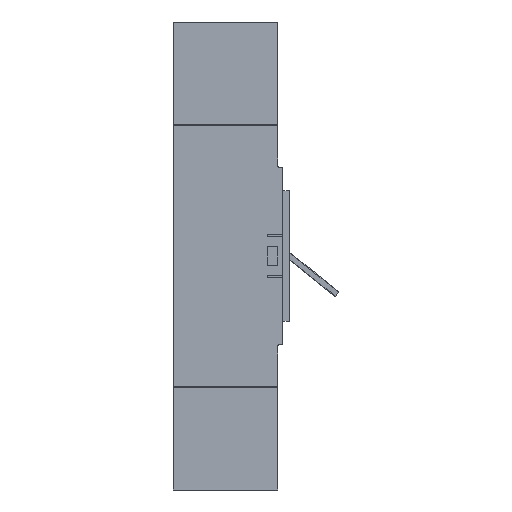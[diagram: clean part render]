
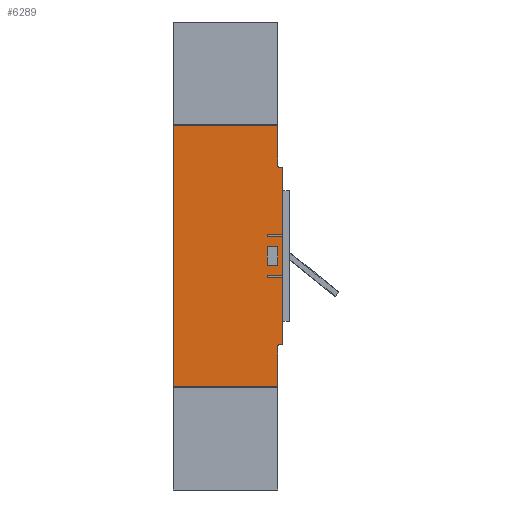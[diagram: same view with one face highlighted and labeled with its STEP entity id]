
A CAD part, left-side view. The second image highlights one B-rep face of the part: STEP entity #6289.
In plain terms, the highlighted planar face has unit normal (-1, 0, 0).
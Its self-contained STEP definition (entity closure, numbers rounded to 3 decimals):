
#177=CIRCLE('',#6671,1.);
#178=CIRCLE('',#6672,1.);
#179=CIRCLE('',#6673,1.);
#180=CIRCLE('',#6674,1.);
#384=FACE_BOUND('',#1124,.T.);
#756=FACE_OUTER_BOUND('',#1123,.T.);
#1123=EDGE_LOOP('',(#5591,#5592,#5593,#5594,#5595,#5596,#5597,#5598,#5599,
#5600,#5601,#5602,#5603,#5604,#5605,#5606,#5607,#5608,#5609,#5610));
#1124=EDGE_LOOP('',(#5611,#5612,#5613,#5614));
#1146=LINE('',#8144,#1814);
#1150=LINE('',#8152,#1818);
#1153=LINE('',#8158,#1821);
#1157=LINE('',#8167,#1825);
#1161=LINE('',#8175,#1829);
#1164=LINE('',#8181,#1832);
#1168=LINE('',#8190,#1836);
#1172=LINE('',#8198,#1840);
#1175=LINE('',#8204,#1843);
#1178=LINE('',#8209,#1846);
#1180=LINE('',#8214,#1848);
#1192=LINE('',#8237,#1860);
#1193=LINE('',#8238,#1861);
#1415=LINE('',#9018,#2083);
#1786=LINE('',#10811,#2454);
#1793=LINE('',#10825,#2461);
#1798=LINE('',#10845,#2466);
#1799=LINE('',#10848,#2467);
#1800=LINE('',#10850,#2468);
#1801=LINE('',#10854,#2469);
#1814=VECTOR('',#6700,15.);
#1818=VECTOR('',#6706,2.);
#1821=VECTOR('',#6711,15.);
#1825=VECTOR('',#6719,15.);
#1829=VECTOR('',#6725,2.);
#1832=VECTOR('',#6730,15.);
#1836=VECTOR('',#6738,10.);
#1840=VECTOR('',#6744,18.4);
#1843=VECTOR('',#6749,10.);
#1846=VECTOR('',#6754,18.4);
#1848=VECTOR('',#6760,64.55);
#1860=VECTOR('',#6772,64.55);
#1861=VECTOR('',#6773,38.4);
#2083=VECTOR('',#7211,255.);
#2454=VECTOR('',#8040,102.);
#2461=VECTOR('',#8057,102.);
#2466=VECTOR('',#8076,3.);
#2467=VECTOR('',#8079,39.75);
#2468=VECTOR('',#8080,39.75);
#2469=VECTOR('',#8083,3.);
#2482=VERTEX_POINT('',#8142);
#2483=VERTEX_POINT('',#8143);
#2486=VERTEX_POINT('',#8151);
#2488=VERTEX_POINT('',#8157);
#2490=VERTEX_POINT('',#8165);
#2491=VERTEX_POINT('',#8166);
#2494=VERTEX_POINT('',#8174);
#2496=VERTEX_POINT('',#8180);
#2498=VERTEX_POINT('',#8188);
#2499=VERTEX_POINT('',#8189);
#2502=VERTEX_POINT('',#8197);
#2504=VERTEX_POINT('',#8203);
#2506=VERTEX_POINT('',#8213);
#2517=VERTEX_POINT('',#8235);
#2778=VERTEX_POINT('',#9015);
#2779=VERTEX_POINT('',#9017);
#3053=VERTEX_POINT('',#10809);
#3055=VERTEX_POINT('',#10823);
#3062=VERTEX_POINT('',#10842);
#3063=VERTEX_POINT('',#10844);
#3064=VERTEX_POINT('',#10846);
#3065=VERTEX_POINT('',#10849);
#3066=VERTEX_POINT('',#10851);
#3067=VERTEX_POINT('',#10853);
#3072=EDGE_CURVE('',#2482,#2483,#1146,.T.);
#3076=EDGE_CURVE('',#2486,#2482,#1150,.T.);
#3079=EDGE_CURVE('',#2488,#2486,#1153,.T.);
#3083=EDGE_CURVE('',#2490,#2491,#1157,.T.);
#3087=EDGE_CURVE('',#2494,#2490,#1161,.T.);
#3090=EDGE_CURVE('',#2496,#2494,#1164,.T.);
#3094=EDGE_CURVE('',#2498,#2499,#1168,.T.);
#3098=EDGE_CURVE('',#2502,#2498,#1172,.T.);
#3101=EDGE_CURVE('',#2504,#2502,#1175,.T.);
#3104=EDGE_CURVE('',#2499,#2504,#1178,.T.);
#3106=EDGE_CURVE('',#2488,#2506,#1180,.T.);
#3118=EDGE_CURVE('',#2517,#2491,#1192,.T.);
#3119=EDGE_CURVE('',#2496,#2483,#1193,.T.);
#3431=EDGE_CURVE('',#2778,#2779,#1415,.T.);
#3924=EDGE_CURVE('',#2778,#3053,#1786,.T.);
#3931=EDGE_CURVE('',#3055,#2779,#1793,.T.);
#3940=EDGE_CURVE('',#3062,#2517,#177,.T.);
#3941=EDGE_CURVE('',#3063,#3062,#1798,.T.);
#3942=EDGE_CURVE('',#3064,#3063,#178,.T.);
#3943=EDGE_CURVE('',#3055,#3064,#1799,.T.);
#3944=EDGE_CURVE('',#3065,#3053,#1800,.T.);
#3945=EDGE_CURVE('',#3066,#3065,#179,.T.);
#3946=EDGE_CURVE('',#3067,#3066,#1801,.T.);
#3947=EDGE_CURVE('',#2506,#3067,#180,.T.);
#5591=ORIENTED_EDGE('',*,*,#3072,.T.);
#5592=ORIENTED_EDGE('',*,*,#3119,.F.);
#5593=ORIENTED_EDGE('',*,*,#3090,.T.);
#5594=ORIENTED_EDGE('',*,*,#3087,.T.);
#5595=ORIENTED_EDGE('',*,*,#3083,.T.);
#5596=ORIENTED_EDGE('',*,*,#3118,.F.);
#5597=ORIENTED_EDGE('',*,*,#3940,.F.);
#5598=ORIENTED_EDGE('',*,*,#3941,.F.);
#5599=ORIENTED_EDGE('',*,*,#3942,.F.);
#5600=ORIENTED_EDGE('',*,*,#3943,.F.);
#5601=ORIENTED_EDGE('',*,*,#3931,.T.);
#5602=ORIENTED_EDGE('',*,*,#3431,.F.);
#5603=ORIENTED_EDGE('',*,*,#3924,.T.);
#5604=ORIENTED_EDGE('',*,*,#3944,.F.);
#5605=ORIENTED_EDGE('',*,*,#3945,.F.);
#5606=ORIENTED_EDGE('',*,*,#3946,.F.);
#5607=ORIENTED_EDGE('',*,*,#3947,.F.);
#5608=ORIENTED_EDGE('',*,*,#3106,.F.);
#5609=ORIENTED_EDGE('',*,*,#3079,.T.);
#5610=ORIENTED_EDGE('',*,*,#3076,.T.);
#5611=ORIENTED_EDGE('',*,*,#3094,.T.);
#5612=ORIENTED_EDGE('',*,*,#3104,.T.);
#5613=ORIENTED_EDGE('',*,*,#3101,.T.);
#5614=ORIENTED_EDGE('',*,*,#3098,.T.);
#5957=PLANE('',#6670);
#6289=ADVANCED_FACE('',(#756,#384),#5957,.F.);
#6670=AXIS2_PLACEMENT_3D('',#10841,#8072,#8073);
#6671=AXIS2_PLACEMENT_3D('',#10843,#8074,#8075);
#6672=AXIS2_PLACEMENT_3D('',#10847,#8077,#8078);
#6673=AXIS2_PLACEMENT_3D('',#10852,#8081,#8082);
#6674=AXIS2_PLACEMENT_3D('',#10855,#8084,#8085);
#6700=DIRECTION('',(0.,-1.,0.));
#6706=DIRECTION('',(0.,0.,1.));
#6711=DIRECTION('',(0.,1.,0.));
#6719=DIRECTION('',(0.,-1.,0.));
#6725=DIRECTION('',(0.,0.,1.));
#6730=DIRECTION('',(0.,1.,0.));
#6738=DIRECTION('',(0.,-1.,0.));
#6744=DIRECTION('',(0.,0.,1.));
#6749=DIRECTION('',(0.,1.,0.));
#6754=DIRECTION('',(0.,0.,-1.));
#6760=DIRECTION('',(0.,0.,-1.));
#6772=DIRECTION('',(0.,0.,-1.));
#6773=DIRECTION('',(0.,0.,-1.));
#7211=DIRECTION('',(0.,0.,1.));
#8040=DIRECTION('',(0.,-1.,0.));
#8057=DIRECTION('',(0.,1.,0.));
#8072=DIRECTION('center_axis',(1.,0.,0.));
#8073=DIRECTION('ref_axis',(0.,0.,1.));
#8074=DIRECTION('center_axis',(1.,0.,0.));
#8075=DIRECTION('ref_axis',(0.,-0.707,0.707));
#8076=DIRECTION('',(0.,-1.,0.));
#8077=DIRECTION('center_axis',(-1.,0.,0.));
#8078=DIRECTION('ref_axis',(0.,0.707,-0.707));
#8079=DIRECTION('',(0.,0.,-1.));
#8080=DIRECTION('',(0.,0.,-1.));
#8081=DIRECTION('center_axis',(-1.,0.,0.));
#8082=DIRECTION('ref_axis',(0.,0.707,0.707));
#8083=DIRECTION('',(0.,1.,0.));
#8084=DIRECTION('center_axis',(1.,0.,0.));
#8085=DIRECTION('ref_axis',(0.,-0.707,-0.707));
#8142=CARTESIAN_POINT('',(0.,93.948,168.58));
#8143=CARTESIAN_POINT('',(0.,78.948,168.58));
#8144=CARTESIAN_POINT('',(0.,106.667,168.58));
#8151=CARTESIAN_POINT('',(0.,93.948,166.58));
#8152=CARTESIAN_POINT('',(0.,93.948,175.77));
#8157=CARTESIAN_POINT('',(0.,78.948,166.58));
#8158=CARTESIAN_POINT('',(0.,99.167,166.58));
#8165=CARTESIAN_POINT('',(0.,93.948,208.98));
#8166=CARTESIAN_POINT('',(0.,78.948,208.98));
#8167=CARTESIAN_POINT('',(0.,106.667,208.98));
#8174=CARTESIAN_POINT('',(0.,93.948,206.98));
#8175=CARTESIAN_POINT('',(0.,93.948,195.97));
#8180=CARTESIAN_POINT('',(0.,78.948,206.98));
#8181=CARTESIAN_POINT('',(0.,99.167,206.98));
#8188=CARTESIAN_POINT('',(0.,93.948,196.98));
#8189=CARTESIAN_POINT('',(0.,83.948,196.98));
#8190=CARTESIAN_POINT('',(0.,106.667,196.98));
#8197=CARTESIAN_POINT('',(0.,93.948,178.58));
#8198=CARTESIAN_POINT('',(0.,93.948,181.77));
#8203=CARTESIAN_POINT('',(0.,83.948,178.58));
#8204=CARTESIAN_POINT('',(0.,101.667,178.58));
#8209=CARTESIAN_POINT('',(0.,83.948,190.97));
#8213=CARTESIAN_POINT('',(0.,78.948,102.03));
#8214=CARTESIAN_POINT('',(0.,78.948,274.53));
#8235=CARTESIAN_POINT('',(0.,78.948,273.53));
#8237=CARTESIAN_POINT('',(0.,78.948,274.53));
#8238=CARTESIAN_POINT('',(0.,78.948,274.53));
#9015=CARTESIAN_POINT('',(0.,185.948,60.28));
#9017=CARTESIAN_POINT('',(0.,185.948,315.28));
#9018=CARTESIAN_POINT('',(0.,185.948,59.28));
#10809=CARTESIAN_POINT('',(0.,83.948,60.28));
#10811=CARTESIAN_POINT('',(0.,152.667,60.28));
#10823=CARTESIAN_POINT('',(0.,83.948,315.28));
#10825=CARTESIAN_POINT('',(0.,152.667,315.28));
#10841=CARTESIAN_POINT('Origin',(0.,119.385,184.96));
#10842=CARTESIAN_POINT('',(0.,79.948,274.53));
#10843=CARTESIAN_POINT('Origin',(0.,79.948,273.53));
#10844=CARTESIAN_POINT('',(0.,82.948,274.53));
#10845=CARTESIAN_POINT('',(0.,83.948,274.53));
#10846=CARTESIAN_POINT('',(0.,83.948,275.53));
#10847=CARTESIAN_POINT('Origin',(0.,82.948,275.53));
#10848=CARTESIAN_POINT('',(0.,83.948,316.28));
#10849=CARTESIAN_POINT('',(0.,83.948,100.03));
#10850=CARTESIAN_POINT('',(0.,83.948,101.03));
#10851=CARTESIAN_POINT('',(0.,82.948,101.03));
#10852=CARTESIAN_POINT('Origin',(0.,82.948,100.03));
#10853=CARTESIAN_POINT('',(0.,79.948,101.03));
#10854=CARTESIAN_POINT('',(0.,78.948,101.03));
#10855=CARTESIAN_POINT('Origin',(0.,79.948,102.03));
